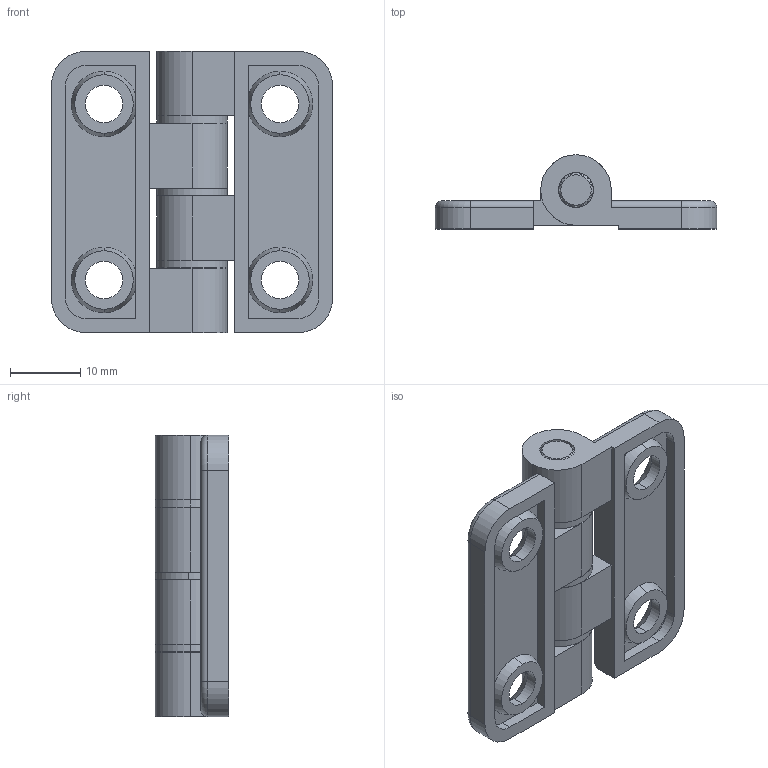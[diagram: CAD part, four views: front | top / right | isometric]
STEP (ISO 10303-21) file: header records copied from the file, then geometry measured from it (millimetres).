
FILE_DESCRIPTION (( 'STEP AP214' ), '1' );
FILE_NAME ('SK2-018WR.STEP', '2020-04-15T06:42:41', ( 'admin' ), ( 'Microsoft' ), 'SwSTEP 2.0', 'SolidWorks 2018', '' );
FILE_SCHEMA (( 'AUTOMOTIVE_DESIGN' ));
Length unit declared in the file: millimetre
Products named in the file (4): SK2-018WR-F3; SK2-018WR-F2; SK2-018WR-F1; SK2-018WR
Assembly tree (6 placements, depth 2):
  SK2-018WR
    SK2-018WR-F1  x2
    SK2-018WR-F2  x3
    SK2-018WR-F3
Bounding box: 40 x 10.5 x 40 mm (x, y, z)
Volume: 6501.3 mm3; surface area: 6733.3 mm2
Topology: 6 solids, 6 shells, 220 faces, 550 edges, 344 vertices
Faces by surface type: plane 144, cylinder 52, cone 20, torus 4
Entity records: 4928 total; most frequent: CARTESIAN_POINT 970, DIRECTION 800, ORIENTED_EDGE 792, EDGE_CURVE 396, AXIS2_PLACEMENT_3D 286, VERTEX_POINT 244, LINE 228, VECTOR 228
